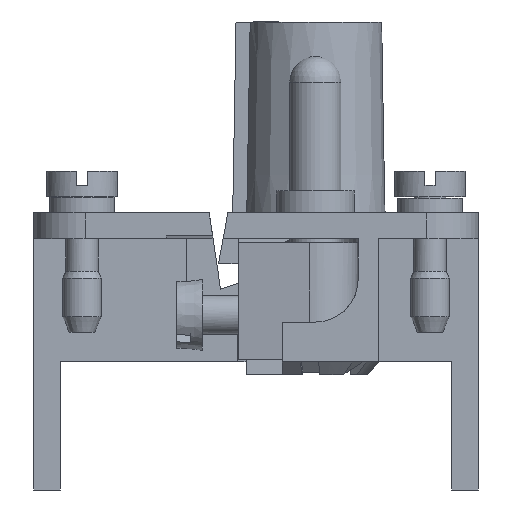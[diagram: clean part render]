
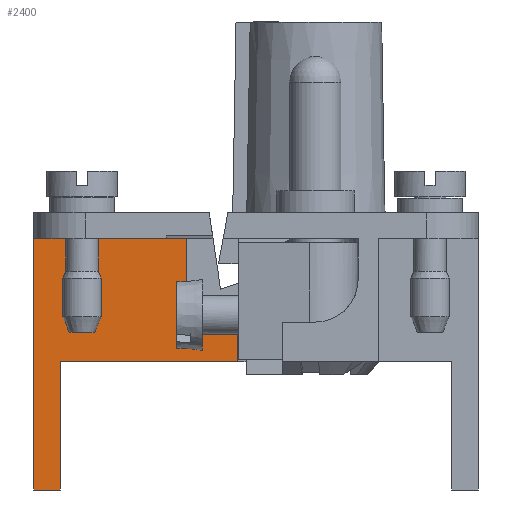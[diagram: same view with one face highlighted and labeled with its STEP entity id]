
A CAD part, left-side view. The second image highlights one B-rep face of the part: STEP entity #2400.
In plain terms, the highlighted planar face has unit normal (-1, 0, 0).
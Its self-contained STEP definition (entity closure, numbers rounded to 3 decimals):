
#2400=ADVANCED_FACE('',(#3466),#2959,.T.);
#2959=PLANE('',#14093);
#3466=FACE_OUTER_BOUND('',#4204,.T.);
#4204=EDGE_LOOP('',(#7147,#7148,#7149,#7150,#7151,#7152,#7153,#7154));
#7147=ORIENTED_EDGE('',*,*,#10392,.F.);
#7148=ORIENTED_EDGE('',*,*,#10276,.T.);
#7149=ORIENTED_EDGE('',*,*,#10305,.F.);
#7150=ORIENTED_EDGE('',*,*,#10393,.T.);
#7151=ORIENTED_EDGE('',*,*,#10394,.T.);
#7152=ORIENTED_EDGE('',*,*,#10349,.F.);
#7153=ORIENTED_EDGE('',*,*,#10395,.F.);
#7154=ORIENTED_EDGE('',*,*,#10396,.F.);
#8773=VERTEX_POINT('',#20635);
#8774=VERTEX_POINT('',#20637);
#8802=VERTEX_POINT('',#20822);
#8842=VERTEX_POINT('',#21013);
#8843=VERTEX_POINT('',#21014);
#8870=VERTEX_POINT('',#21076);
#8872=VERTEX_POINT('',#21099);
#8873=VERTEX_POINT('',#21101);
#10276=EDGE_CURVE('',#8774,#8773,#11672,.T.);
#10305=EDGE_CURVE('',#8802,#8773,#11680,.T.);
#10349=EDGE_CURVE('',#8842,#8843,#11711,.T.);
#10392=EDGE_CURVE('',#8774,#8872,#11748,.T.);
#10393=EDGE_CURVE('',#8802,#8873,#11749,.T.);
#10394=EDGE_CURVE('',#8873,#8843,#11750,.T.);
#10395=EDGE_CURVE('',#8870,#8842,#11751,.T.);
#10396=EDGE_CURVE('',#8872,#8870,#11752,.T.);
#11672=LINE('',#20636,#12909);
#11680=LINE('',#20823,#12917);
#11711=LINE('',#21012,#12948);
#11748=LINE('',#21098,#12985);
#11749=LINE('',#21100,#12986);
#11750=LINE('',#21102,#12987);
#11751=LINE('',#21103,#12988);
#11752=LINE('',#21104,#12989);
#12909=VECTOR('',#16450,1.);
#12917=VECTOR('',#16462,1.);
#12948=VECTOR('',#16495,1.);
#12985=VECTOR('',#16570,1.);
#12986=VECTOR('',#16571,1.);
#12987=VECTOR('',#16572,1.);
#12988=VECTOR('',#16573,1.);
#12989=VECTOR('',#16574,1.);
#14093=AXIS2_PLACEMENT_3D('',#21105,#16575,#16576);
#16450=DIRECTION('',(0.,1.,0.));
#16462=DIRECTION('',(0.,0.,1.));
#16495=DIRECTION('',(0.,1.,0.));
#16570=DIRECTION('',(0.,0.,-1.));
#16571=DIRECTION('',(0.,-1.,0.));
#16572=DIRECTION('',(0.,0.,1.));
#16573=DIRECTION('',(0.,0.,-1.));
#16574=DIRECTION('',(0.,-1.,0.));
#16575=DIRECTION('',(-1.,0.,0.));
#16576=DIRECTION('',(0.,0.,-1.));
#20635=CARTESIAN_POINT('',(-31.65,17.25,0.));
#20636=CARTESIAN_POINT('',(-31.65,-1.78,0.));
#20637=CARTESIAN_POINT('',(-31.65,5.4,0.));
#20822=CARTESIAN_POINT('',(-31.65,17.25,-19.5));
#20823=CARTESIAN_POINT('',(-31.65,17.25,-4.95));
#21012=CARTESIAN_POINT('',(-31.65,1.4,-9.57));
#21013=CARTESIAN_POINT('',(-31.65,1.4,-9.57));
#21014=CARTESIAN_POINT('',(-31.65,15.2,-9.57));
#21076=CARTESIAN_POINT('',(-31.65,1.4,-6.95));
#21098=CARTESIAN_POINT('',(-31.65,5.4,-4.95));
#21099=CARTESIAN_POINT('',(-31.65,5.4,-6.95));
#21100=CARTESIAN_POINT('',(-31.65,15.2,-19.5));
#21101=CARTESIAN_POINT('',(-31.65,15.2,-19.5));
#21102=CARTESIAN_POINT('',(-31.65,15.2,-19.5));
#21103=CARTESIAN_POINT('',(-31.65,1.4,-6.95));
#21104=CARTESIAN_POINT('',(-31.65,-1.78,-6.95));
#21105=CARTESIAN_POINT('',(-31.65,-1.78,-4.95));
